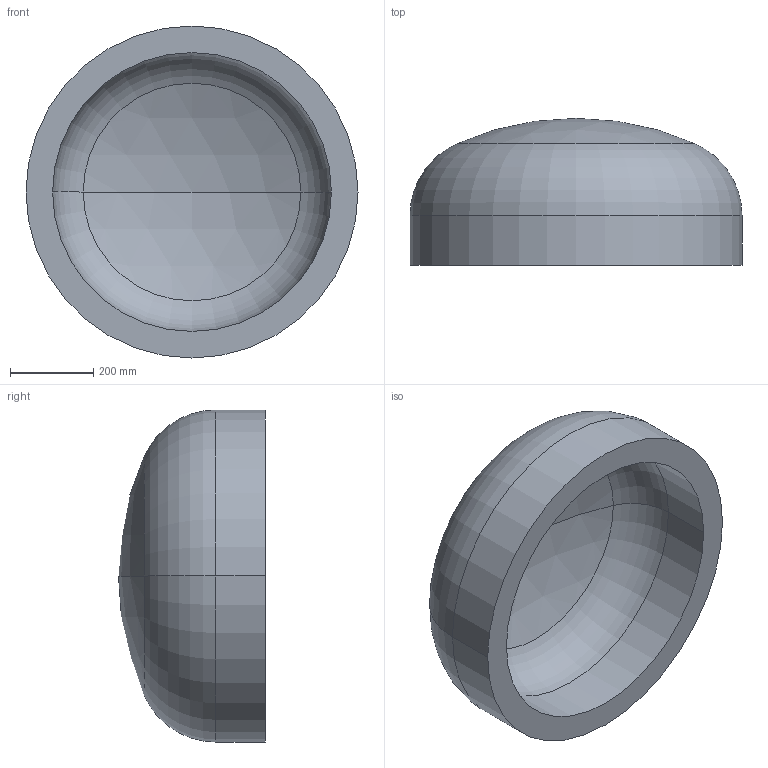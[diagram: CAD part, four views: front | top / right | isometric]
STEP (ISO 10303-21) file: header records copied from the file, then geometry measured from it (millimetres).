
FILE_DESCRIPTION (( 'STEP AP203' ), '1' );
FILE_NAME ('DIN 28013 Korbbogenform_-_Boden DIN 28013 - 800 x 120 - I - s=64.step', '2016-07-01T08:19:49', ( '' ), ( '' ), 'SwSTEP 2.0', 'SolidWorks 2013', '' );
FILE_SCHEMA (( 'CONFIG_CONTROL_DESIGN' ));
Length unit declared in the file: millimetre
Products named in the file (1): DIN 28013 Korbbogenform_-_Boden DIN 28013 - 800 x 120 - I - s=64
Bounding box: 800 x 354.21 x 800 mm (x, y, z)
Volume: 58179244.8 mm3; surface area: 1974661.3 mm2
Topology: 1 solids, 1 shells, 13 faces, 24 edges, 14 vertices
Faces by surface type: torus 4, cylinder 4, sphere 4, plane 1
Entity records: 407 total; most frequent: DIRECTION 72, CARTESIAN_POINT 52, ORIENTED_EDGE 48, AXIS2_PLACEMENT_3D 34, EDGE_CURVE 24, CIRCLE 20, VERTEX_POINT 14, EDGE_LOOP 14
